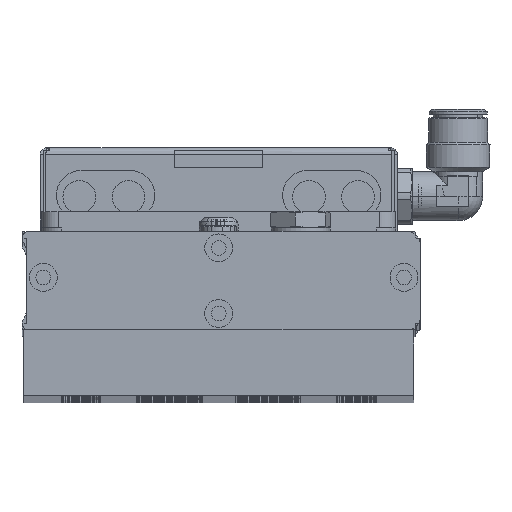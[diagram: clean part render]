
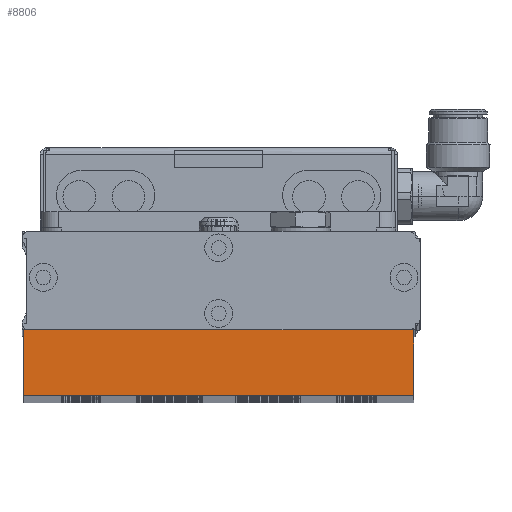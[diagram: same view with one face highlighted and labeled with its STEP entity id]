
A CAD part, top view. The second image highlights one B-rep face of the part: STEP entity #8806.
In plain terms, the highlighted planar face has unit normal (0, 0, 1).
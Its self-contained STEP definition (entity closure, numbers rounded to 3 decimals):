
#372 = VECTOR ( 'NONE', #48805, 1000. ) ;
#6249 = CARTESIAN_POINT ( 'NONE',  ( -82.6, -51.3, 622. ) ) ;
#7888 = CARTESIAN_POINT ( 'NONE',  ( -82.6, -71.3, 622. ) ) ;
#8806 = ADVANCED_FACE ( 'NONE', ( #61709 ), #14241, .F. ) ;
#11416 = LINE ( 'NONE', #43543, #15322 ) ;
#14241 = PLANE ( 'NONE',  #28923 ) ;
#14931 = EDGE_LOOP ( 'NONE', ( #30640, #34025, #42033, #60340 ) ) ;
#15322 = VECTOR ( 'NONE', #57650, 1000. ) ;
#16095 = VECTOR ( 'NONE', #62425, 1000. ) ;
#21612 = EDGE_CURVE ( 'NONE', #27585, #50756, #64244, .T. ) ;
#24657 = DIRECTION ( 'NONE',  ( 0., 0., -1. ) ) ;
#25673 = CARTESIAN_POINT ( 'NONE',  ( -82.6, -51.3, 622. ) ) ;
#26222 = DIRECTION ( 'NONE',  ( 0., -1., 0. ) ) ;
#27351 = CARTESIAN_POINT ( 'NONE',  ( 36.4, -71.3, 622. ) ) ;
#27444 = CARTESIAN_POINT ( 'NONE',  ( -82.6, -51.3, 622. ) ) ;
#27585 = VERTEX_POINT ( 'NONE', #25673 ) ;
#28923 = AXIS2_PLACEMENT_3D ( 'NONE', #35297, #24657, #59588 ) ;
#29263 = LINE ( 'NONE', #27444, #16095 ) ;
#30640 = ORIENTED_EDGE ( 'NONE', *, *, #55902, .T. ) ;
#34025 = ORIENTED_EDGE ( 'NONE', *, *, #48687, .F. ) ;
#35297 = CARTESIAN_POINT ( 'NONE',  ( -82.6, -51.3, 622. ) ) ;
#37810 = VECTOR ( 'NONE', #26222, 1000. ) ;
#42033 = ORIENTED_EDGE ( 'NONE', *, *, #63825, .F. ) ;
#43297 = VERTEX_POINT ( 'NONE', #27351 ) ;
#43543 = CARTESIAN_POINT ( 'NONE',  ( 36.4, -51.3, 622. ) ) ;
#44061 = CARTESIAN_POINT ( 'NONE',  ( -82.6, -71.3, 622. ) ) ;
#48687 = EDGE_CURVE ( 'NONE', #56093, #43297, #11416, .T. ) ;
#48805 = DIRECTION ( 'NONE',  ( 1., 0., 0. ) ) ;
#50058 = LINE ( 'NONE', #44061, #372 ) ;
#50756 = VERTEX_POINT ( 'NONE', #7888 ) ;
#54851 = CARTESIAN_POINT ( 'NONE',  ( 36.4, -51.3, 622. ) ) ;
#55902 = EDGE_CURVE ( 'NONE', #50756, #43297, #50058, .T. ) ;
#56093 = VERTEX_POINT ( 'NONE', #54851 ) ;
#57650 = DIRECTION ( 'NONE',  ( 0., -1., 0. ) ) ;
#59588 = DIRECTION ( 'NONE',  ( 0., 1., 0. ) ) ;
#60340 = ORIENTED_EDGE ( 'NONE', *, *, #21612, .T. ) ;
#61709 = FACE_OUTER_BOUND ( 'NONE', #14931, .T. ) ;
#62425 = DIRECTION ( 'NONE',  ( 1., 0., 0. ) ) ;
#63825 = EDGE_CURVE ( 'NONE', #27585, #56093, #29263, .T. ) ;
#64244 = LINE ( 'NONE', #6249, #37810 ) ;
